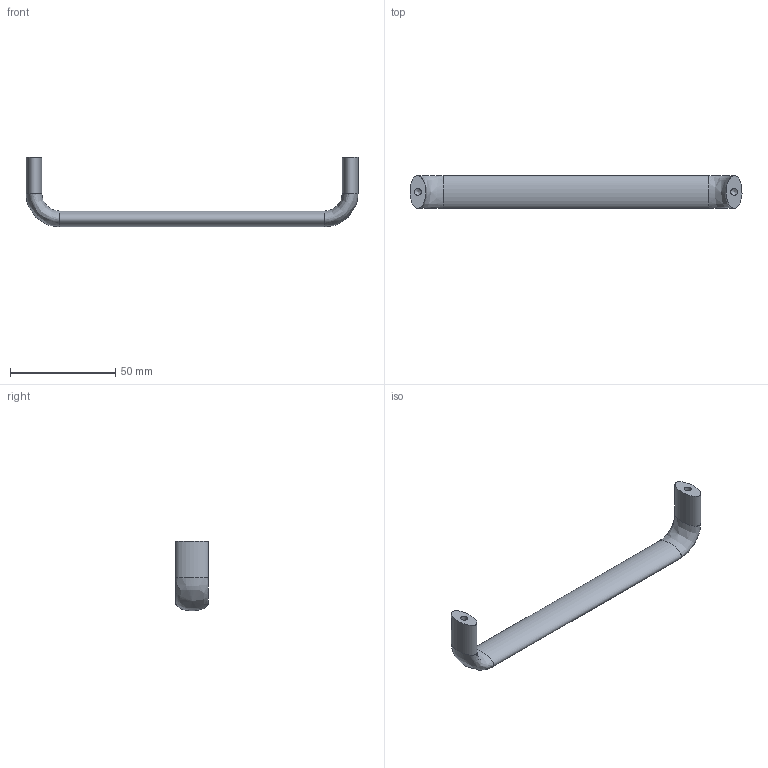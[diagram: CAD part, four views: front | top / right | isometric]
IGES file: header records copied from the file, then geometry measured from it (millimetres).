
Global section: file name: DR_A-GA15-150; native system: Autodesk Inventor 2015; preprocessor: unknown; author: user; date: 20170711.083226; units: millimetre
Bounding box: 157.45 x 15.5 x 32.98 mm (x, y, z)
Volume: 17774.1 mm3; surface area: 7740.3 mm2
Topology: 1 solids, 1 shells, 11 faces, 25 edges, 16 vertices
Faces by surface type: bspline 11
